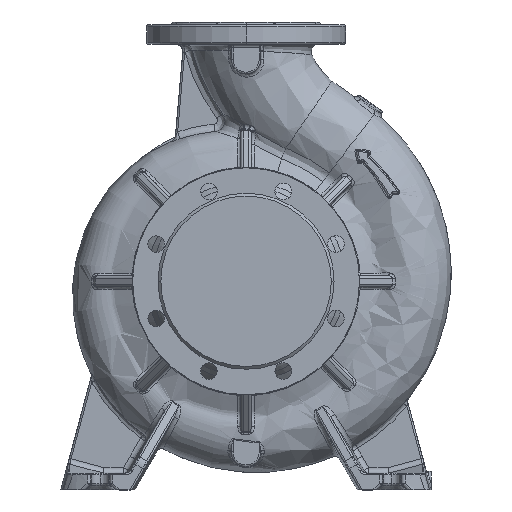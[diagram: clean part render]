
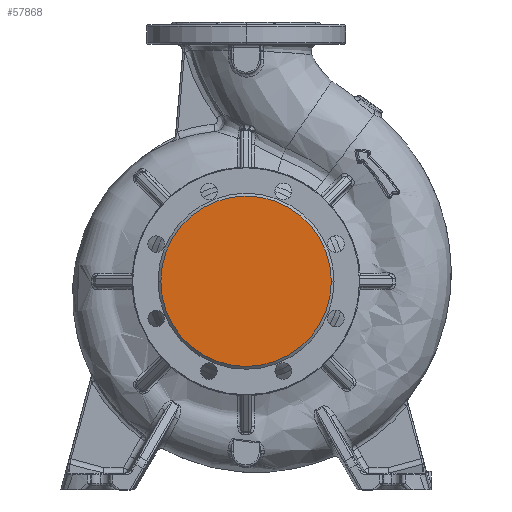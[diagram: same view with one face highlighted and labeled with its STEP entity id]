
A CAD part, top view. The second image highlights one B-rep face of the part: STEP entity #57868.
In plain terms, the highlighted planar face has unit normal (0, 0, 1).
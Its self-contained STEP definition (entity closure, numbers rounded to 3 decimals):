
#19204 = DIRECTION ( 'NONE',  ( -1., 0., 0. ) ) ;
#19844 = AXIS2_PLACEMENT_3D ( 'NONE', #93823, #37254, #21538 ) ;
#21538 = DIRECTION ( 'NONE',  ( -1., 0., 0. ) ) ;
#22822 = EDGE_LOOP ( 'NONE', ( #39857, #51785 ) ) ;
#28526 = PLANE ( 'NONE',  #19844 ) ;
#34681 = CARTESIAN_POINT ( 'NONE',  ( 92., 0., 125. ) ) ;
#37254 = DIRECTION ( 'NONE',  ( 0., 0., -1. ) ) ;
#39857 = ORIENTED_EDGE ( 'NONE', *, *, #98007, .F. ) ;
#40874 = CIRCLE ( 'NONE', #80595, 92. ) ;
#51785 = ORIENTED_EDGE ( 'NONE', *, *, #72972, .F. ) ;
#54259 = DIRECTION ( 'NONE',  ( -1., 0., 0. ) ) ;
#57868 = ADVANCED_FACE ( 'NONE', ( #60576 ), #28526, .F. ) ;
#60576 = FACE_OUTER_BOUND ( 'NONE', #22822, .T. ) ;
#62655 = AXIS2_PLACEMENT_3D ( 'NONE', #79419, #79093, #54259 ) ;
#66772 = VERTEX_POINT ( 'NONE', #34681 ) ;
#72972 = EDGE_CURVE ( 'NONE', #66772, #82441, #88388, .T. ) ;
#77094 = CARTESIAN_POINT ( 'NONE',  ( -92., 0., 125. ) ) ;
#79093 = DIRECTION ( 'NONE',  ( 0., 0., -1. ) ) ;
#79419 = CARTESIAN_POINT ( 'NONE',  ( 0., 0., 125. ) ) ;
#80595 = AXIS2_PLACEMENT_3D ( 'NONE', #91520, #90840, #19204 ) ;
#82441 = VERTEX_POINT ( 'NONE', #77094 ) ;
#88388 = CIRCLE ( 'NONE', #62655, 92. ) ;
#90840 = DIRECTION ( 'NONE',  ( 0., 0., -1. ) ) ;
#91520 = CARTESIAN_POINT ( 'NONE',  ( 0., 0., 125. ) ) ;
#93823 = CARTESIAN_POINT ( 'NONE',  ( 0., 0., 125. ) ) ;
#98007 = EDGE_CURVE ( 'NONE', #82441, #66772, #40874, .T. ) ;
